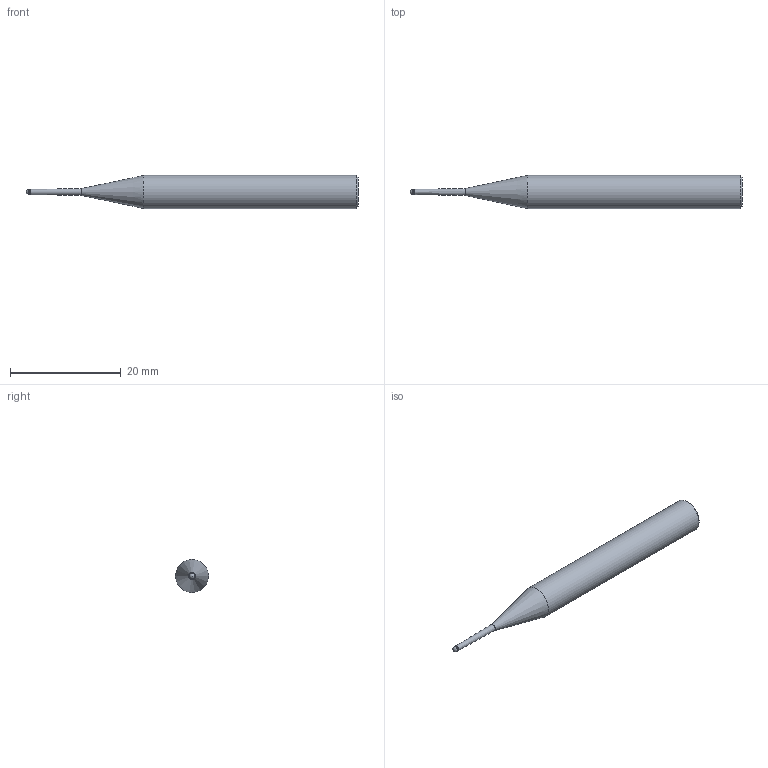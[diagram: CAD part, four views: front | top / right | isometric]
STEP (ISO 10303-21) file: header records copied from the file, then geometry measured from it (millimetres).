
FILE_DESCRIPTION(/* description */ (''),/* implementation_level */ '2;1');
FILE_NAME(/* name */ 'HGXPB2010-10-T0.9 0660.stp',/* time_stamp */ '2026-01-22T08:56:32+08:00',/* author */ (''),/* organization */ (''),/* preprocessor_version */ 'ST-DEVELOPER v16',/* originating_system */ 'SIEMENS PLM Software NX 10.0',/* authorisation */ '');
FILE_SCHEMA (('CONFIG_CONTROL_DESIGN'));
Length unit declared in the file: millimetre
Products named in the file (1): HGXPB2010-10-T0.9 0660_x_t
Bounding box: 60 x 6 x 6 mm (x, y, z)
Volume: 1237.3 mm3; surface area: 920.6 mm2
Topology: 1 solids, 1 shells, 9 faces, 17 edges, 10 vertices
Faces by surface type: cylinder 3, cone 3, plane 2, sphere 1
Full cylindrical faces by diameter (mm): 0.95 x1, 1 x1, 6 x1
Entity records: 258 total; most frequent: DIRECTION 36, CARTESIAN_POINT 26, AXIS2_PLACEMENT_3D 18, EDGE_LOOP 16, ORIENTED_EDGE 16, FACE_BOUND 14, ADVANCED_FACE 9, VERTEX_POINT 8
